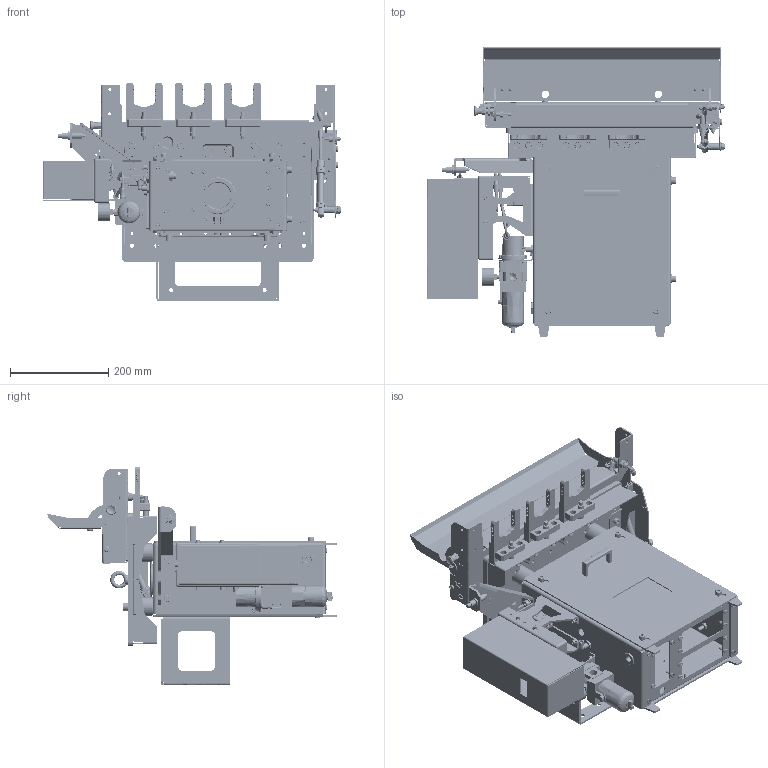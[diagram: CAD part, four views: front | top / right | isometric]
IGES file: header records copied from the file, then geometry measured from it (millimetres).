
Start section:  PTC IGES file: bh0023.igs
Global section: file name: bh0023.igs; native system: Creo Parametric by Parametric Technology Corporation; preprocessor: 2016100; author: Licht.Sebastian; organization: Unknown; date: 20180829.082801; units: millimetre
Bounding box: 607.5 x 589.29 x 445 mm (x, y, z)
Volume: 5510897.3 mm3; surface area: 2334140.2 mm2
Topology: 4 solids, 14 shells, 9276 faces, 23064 edges, 14328 vertices
Faces by surface type: revolution 5260, bspline 3973, extrusion 43
